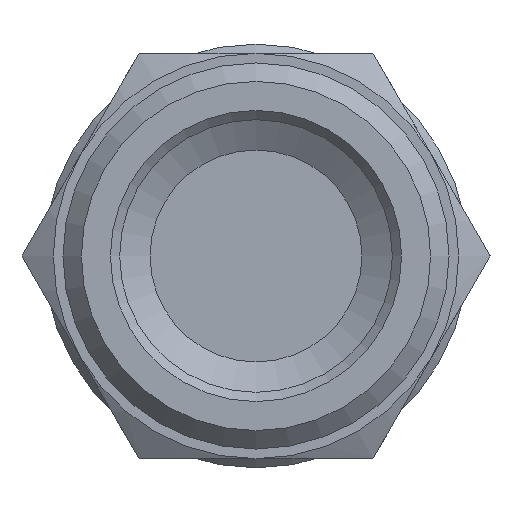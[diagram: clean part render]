
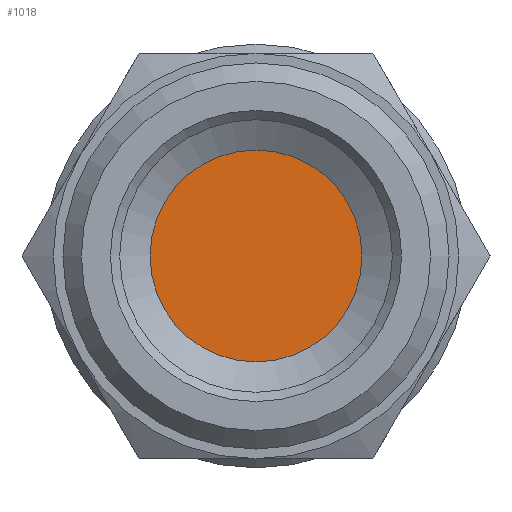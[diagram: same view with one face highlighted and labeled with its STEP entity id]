
A CAD part, left-side view. The second image highlights one B-rep face of the part: STEP entity #1018.
In plain terms, the highlighted planar face has unit normal (-1, 0, 0).
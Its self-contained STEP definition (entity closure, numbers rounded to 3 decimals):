
#82=PLANE('',#1179);
#137=FACE_OUTER_BOUND('',#211,.T.);
#211=EDGE_LOOP('',(#858,#859));
#378=CIRCLE('',#1180,5.75);
#379=CIRCLE('',#1181,5.75);
#479=VERTEX_POINT('',#1866);
#480=VERTEX_POINT('',#1867);
#619=EDGE_CURVE('',#479,#480,#378,.T.);
#620=EDGE_CURVE('',#480,#479,#379,.T.);
#858=ORIENTED_EDGE('',*,*,#619,.F.);
#859=ORIENTED_EDGE('',*,*,#620,.F.);
#1018=ADVANCED_FACE('',(#137),#82,.T.);
#1179=AXIS2_PLACEMENT_3D('',#1865,#1488,#1489);
#1180=AXIS2_PLACEMENT_3D('',#1868,#1490,#1491);
#1181=AXIS2_PLACEMENT_3D('',#1869,#1492,#1493);
#1488=DIRECTION('center_axis',(-1.,0.,0.));
#1489=DIRECTION('ref_axis',(0.,0.,1.));
#1490=DIRECTION('center_axis',(1.,0.,0.));
#1491=DIRECTION('ref_axis',(0.,0.,-1.));
#1492=DIRECTION('center_axis',(1.,0.,0.));
#1493=DIRECTION('ref_axis',(0.,0.,-1.));
#1865=CARTESIAN_POINT('Origin',(-1.,5.75,0.));
#1866=CARTESIAN_POINT('',(-1.,5.75,0.));
#1867=CARTESIAN_POINT('',(-1.,-5.75,0.));
#1868=CARTESIAN_POINT('Origin',(-1.,0.,0.));
#1869=CARTESIAN_POINT('Origin',(-1.,0.,0.));
